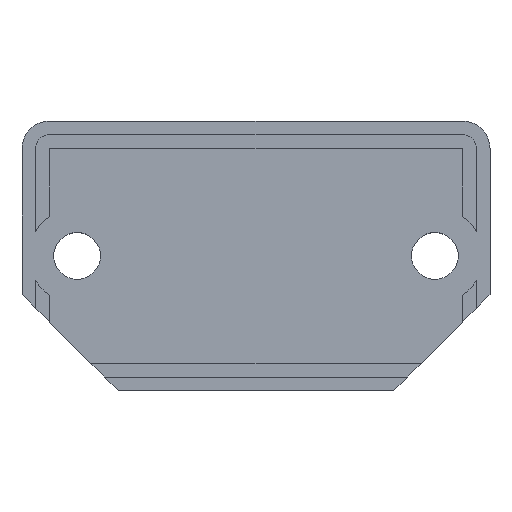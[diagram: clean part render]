
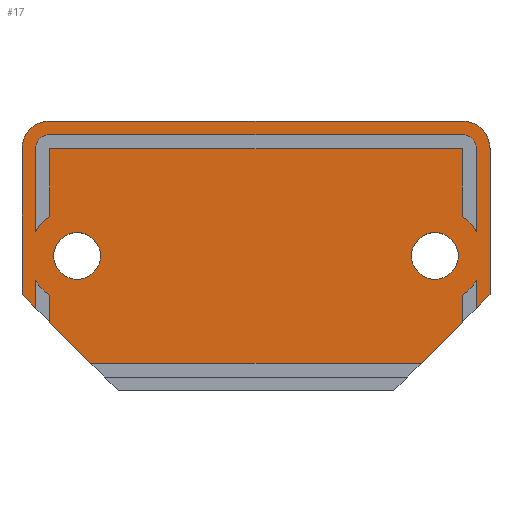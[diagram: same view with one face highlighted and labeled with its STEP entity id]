
A CAD part, top view. The second image highlights one B-rep face of the part: STEP entity #17.
In plain terms, the highlighted planar face has unit normal (0, 0, 1).
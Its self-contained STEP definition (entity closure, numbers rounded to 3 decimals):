
#17 = ADVANCED_FACE('',(#18,#152,#163,#174),#260,.T.);
#18 = FACE_BOUND('',#19,.T.);
#19 = EDGE_LOOP('',(#20,#30,#38,#46,#55,#63,#71,#79,#87,#95,#104,#112,
    #120,#128,#137,#145));
#20 = ORIENTED_EDGE('',*,*,#21,.F.);
#21 = EDGE_CURVE('',#22,#24,#26,.T.);
#22 = VERTEX_POINT('',#23);
#23 = CARTESIAN_POINT('',(-17.,-2.8,4.));
#24 = VERTEX_POINT('',#25);
#25 = CARTESIAN_POINT('',(-17.,7.8,4.));
#26 = LINE('',#27,#28);
#27 = CARTESIAN_POINT('',(-17.,-7.8,4.));
#28 = VECTOR('',#29,1.);
#29 = DIRECTION('',(-0.,1.,0.));
#30 = ORIENTED_EDGE('',*,*,#31,.T.);
#31 = EDGE_CURVE('',#22,#32,#34,.T.);
#32 = VERTEX_POINT('',#33);
#33 = CARTESIAN_POINT('',(-16.,-3.8,4.));
#34 = LINE('',#35,#36);
#35 = CARTESIAN_POINT('',(-9.95,-9.85,4.));
#36 = VECTOR('',#37,1.);
#37 = DIRECTION('',(0.707,-0.707,0.));
#38 = ORIENTED_EDGE('',*,*,#39,.T.);
#39 = EDGE_CURVE('',#32,#40,#42,.T.);
#40 = VERTEX_POINT('',#41);
#41 = CARTESIAN_POINT('',(-16.,-1.803,4.));
#42 = LINE('',#43,#44);
#43 = CARTESIAN_POINT('',(-16.,-3.9,4.));
#44 = VECTOR('',#45,1.);
#45 = DIRECTION('',(-0.,1.,0.));
#46 = ORIENTED_EDGE('',*,*,#47,.T.);
#47 = EDGE_CURVE('',#40,#48,#50,.T.);
#48 = VERTEX_POINT('',#49);
#49 = CARTESIAN_POINT('',(-15.,-2.872,4.));
#50 = CIRCLE('',#51,3.5);
#51 = AXIS2_PLACEMENT_3D('',#52,#53,#54);
#52 = CARTESIAN_POINT('',(-13.,0.,4.));
#53 = DIRECTION('',(0.,0.,1.));
#54 = DIRECTION('',(1.,0.,-0.));
#55 = ORIENTED_EDGE('',*,*,#56,.F.);
#56 = EDGE_CURVE('',#57,#48,#59,.T.);
#57 = VERTEX_POINT('',#58);
#58 = CARTESIAN_POINT('',(-15.,-4.8,4.));
#59 = LINE('',#60,#61);
#60 = CARTESIAN_POINT('',(-15.,-3.9,4.));
#61 = VECTOR('',#62,1.);
#62 = DIRECTION('',(-0.,1.,0.));
#63 = ORIENTED_EDGE('',*,*,#64,.T.);
#64 = EDGE_CURVE('',#57,#65,#67,.T.);
#65 = VERTEX_POINT('',#66);
#66 = CARTESIAN_POINT('',(-12.,-7.8,4.));
#67 = LINE('',#68,#69);
#68 = CARTESIAN_POINT('',(-9.95,-9.85,4.));
#69 = VECTOR('',#70,1.);
#70 = DIRECTION('',(0.707,-0.707,0.));
#71 = ORIENTED_EDGE('',*,*,#72,.F.);
#72 = EDGE_CURVE('',#73,#65,#75,.T.);
#73 = VERTEX_POINT('',#74);
#74 = CARTESIAN_POINT('',(12.,-7.8,4.));
#75 = LINE('',#76,#77);
#76 = CARTESIAN_POINT('',(-7.5,-7.8,4.));
#77 = VECTOR('',#78,1.);
#78 = DIRECTION('',(-1.,-0.,0.));
#79 = ORIENTED_EDGE('',*,*,#80,.F.);
#80 = EDGE_CURVE('',#81,#73,#83,.T.);
#81 = VERTEX_POINT('',#82);
#82 = CARTESIAN_POINT('',(15.,-4.8,4.));
#83 = LINE('',#84,#85);
#84 = CARTESIAN_POINT('',(9.95,-9.85,4.));
#85 = VECTOR('',#86,1.);
#86 = DIRECTION('',(-0.707,-0.707,0.));
#87 = ORIENTED_EDGE('',*,*,#88,.T.);
#88 = EDGE_CURVE('',#81,#89,#91,.T.);
#89 = VERTEX_POINT('',#90);
#90 = CARTESIAN_POINT('',(15.,-2.872,4.));
#91 = LINE('',#92,#93);
#92 = CARTESIAN_POINT('',(15.,-3.9,4.));
#93 = VECTOR('',#94,1.);
#94 = DIRECTION('',(-0.,1.,0.));
#95 = ORIENTED_EDGE('',*,*,#96,.T.);
#96 = EDGE_CURVE('',#89,#97,#99,.T.);
#97 = VERTEX_POINT('',#98);
#98 = CARTESIAN_POINT('',(16.,-1.803,4.));
#99 = CIRCLE('',#100,3.5);
#100 = AXIS2_PLACEMENT_3D('',#101,#102,#103);
#101 = CARTESIAN_POINT('',(13.,0.,4.));
#102 = DIRECTION('',(0.,0.,1.));
#103 = DIRECTION('',(1.,0.,-0.));
#104 = ORIENTED_EDGE('',*,*,#105,.F.);
#105 = EDGE_CURVE('',#106,#97,#108,.T.);
#106 = VERTEX_POINT('',#107);
#107 = CARTESIAN_POINT('',(16.,-3.8,4.));
#108 = LINE('',#109,#110);
#109 = CARTESIAN_POINT('',(16.,-3.9,4.));
#110 = VECTOR('',#111,1.);
#111 = DIRECTION('',(-0.,1.,0.));
#112 = ORIENTED_EDGE('',*,*,#113,.F.);
#113 = EDGE_CURVE('',#114,#106,#116,.T.);
#114 = VERTEX_POINT('',#115);
#115 = CARTESIAN_POINT('',(17.,-2.8,4.));
#116 = LINE('',#117,#118);
#117 = CARTESIAN_POINT('',(9.95,-9.85,4.));
#118 = VECTOR('',#119,1.);
#119 = DIRECTION('',(-0.707,-0.707,0.));
#120 = ORIENTED_EDGE('',*,*,#121,.T.);
#121 = EDGE_CURVE('',#114,#122,#124,.T.);
#122 = VERTEX_POINT('',#123);
#123 = CARTESIAN_POINT('',(17.,7.8,4.));
#124 = LINE('',#125,#126);
#125 = CARTESIAN_POINT('',(17.,-7.8,4.));
#126 = VECTOR('',#127,1.);
#127 = DIRECTION('',(-0.,1.,0.));
#128 = ORIENTED_EDGE('',*,*,#129,.T.);
#129 = EDGE_CURVE('',#122,#130,#132,.T.);
#130 = VERTEX_POINT('',#131);
#131 = CARTESIAN_POINT('',(15.,9.8,4.));
#132 = CIRCLE('',#133,2.);
#133 = AXIS2_PLACEMENT_3D('',#134,#135,#136);
#134 = CARTESIAN_POINT('',(15.,7.8,4.));
#135 = DIRECTION('',(0.,0.,1.));
#136 = DIRECTION('',(1.,0.,-0.));
#137 = ORIENTED_EDGE('',*,*,#138,.F.);
#138 = EDGE_CURVE('',#139,#130,#141,.T.);
#139 = VERTEX_POINT('',#140);
#140 = CARTESIAN_POINT('',(-15.,9.8,4.));
#141 = LINE('',#142,#143);
#142 = CARTESIAN_POINT('',(-15.,9.8,4.));
#143 = VECTOR('',#144,1.);
#144 = DIRECTION('',(1.,0.,-0.));
#145 = ORIENTED_EDGE('',*,*,#146,.T.);
#146 = EDGE_CURVE('',#139,#24,#147,.T.);
#147 = CIRCLE('',#148,2.);
#148 = AXIS2_PLACEMENT_3D('',#149,#150,#151);
#149 = CARTESIAN_POINT('',(-15.,7.8,4.));
#150 = DIRECTION('',(0.,0.,1.));
#151 = DIRECTION('',(1.,0.,-0.));
#152 = FACE_BOUND('',#153,.T.);
#153 = EDGE_LOOP('',(#154));
#154 = ORIENTED_EDGE('',*,*,#155,.F.);
#155 = EDGE_CURVE('',#156,#156,#158,.T.);
#156 = VERTEX_POINT('',#157);
#157 = CARTESIAN_POINT('',(-11.3,0.,4.));
#158 = CIRCLE('',#159,1.7);
#159 = AXIS2_PLACEMENT_3D('',#160,#161,#162);
#160 = CARTESIAN_POINT('',(-13.,0.,4.));
#161 = DIRECTION('',(0.,0.,1.));
#162 = DIRECTION('',(1.,0.,-0.));
#163 = FACE_BOUND('',#164,.T.);
#164 = EDGE_LOOP('',(#165));
#165 = ORIENTED_EDGE('',*,*,#166,.F.);
#166 = EDGE_CURVE('',#167,#167,#169,.T.);
#167 = VERTEX_POINT('',#168);
#168 = CARTESIAN_POINT('',(14.7,0.,4.));
#169 = CIRCLE('',#170,1.7);
#170 = AXIS2_PLACEMENT_3D('',#171,#172,#173);
#171 = CARTESIAN_POINT('',(13.,0.,4.));
#172 = DIRECTION('',(0.,0.,1.));
#173 = DIRECTION('',(1.,0.,-0.));
#174 = FACE_BOUND('',#175,.T.);
#175 = EDGE_LOOP('',(#176,#186,#195,#203,#211,#219,#228,#236,#245,#253)
  );
#176 = ORIENTED_EDGE('',*,*,#177,.F.);
#177 = EDGE_CURVE('',#178,#180,#182,.T.);
#178 = VERTEX_POINT('',#179);
#179 = CARTESIAN_POINT('',(16.,1.803,4.));
#180 = VERTEX_POINT('',#181);
#181 = CARTESIAN_POINT('',(16.,7.8,4.));
#182 = LINE('',#183,#184);
#183 = CARTESIAN_POINT('',(16.,-3.9,4.));
#184 = VECTOR('',#185,1.);
#185 = DIRECTION('',(-0.,1.,0.));
#186 = ORIENTED_EDGE('',*,*,#187,.T.);
#187 = EDGE_CURVE('',#178,#188,#190,.T.);
#188 = VERTEX_POINT('',#189);
#189 = CARTESIAN_POINT('',(15.,2.872,4.));
#190 = CIRCLE('',#191,3.5);
#191 = AXIS2_PLACEMENT_3D('',#192,#193,#194);
#192 = CARTESIAN_POINT('',(13.,0.,4.));
#193 = DIRECTION('',(0.,0.,1.));
#194 = DIRECTION('',(1.,0.,-0.));
#195 = ORIENTED_EDGE('',*,*,#196,.T.);
#196 = EDGE_CURVE('',#188,#197,#199,.T.);
#197 = VERTEX_POINT('',#198);
#198 = CARTESIAN_POINT('',(15.,7.8,4.));
#199 = LINE('',#200,#201);
#200 = CARTESIAN_POINT('',(15.,-3.9,4.));
#201 = VECTOR('',#202,1.);
#202 = DIRECTION('',(-0.,1.,0.));
#203 = ORIENTED_EDGE('',*,*,#204,.T.);
#204 = EDGE_CURVE('',#197,#205,#207,.T.);
#205 = VERTEX_POINT('',#206);
#206 = CARTESIAN_POINT('',(-15.,7.8,4.));
#207 = LINE('',#208,#209);
#208 = CARTESIAN_POINT('',(-7.5,7.8,4.));
#209 = VECTOR('',#210,1.);
#210 = DIRECTION('',(-1.,-0.,0.));
#211 = ORIENTED_EDGE('',*,*,#212,.F.);
#212 = EDGE_CURVE('',#213,#205,#215,.T.);
#213 = VERTEX_POINT('',#214);
#214 = CARTESIAN_POINT('',(-15.,2.872,4.));
#215 = LINE('',#216,#217);
#216 = CARTESIAN_POINT('',(-15.,-3.9,4.));
#217 = VECTOR('',#218,1.);
#218 = DIRECTION('',(-0.,1.,0.));
#219 = ORIENTED_EDGE('',*,*,#220,.T.);
#220 = EDGE_CURVE('',#213,#221,#223,.T.);
#221 = VERTEX_POINT('',#222);
#222 = CARTESIAN_POINT('',(-16.,1.803,4.));
#223 = CIRCLE('',#224,3.5);
#224 = AXIS2_PLACEMENT_3D('',#225,#226,#227);
#225 = CARTESIAN_POINT('',(-13.,0.,4.));
#226 = DIRECTION('',(0.,0.,1.));
#227 = DIRECTION('',(1.,0.,-0.));
#228 = ORIENTED_EDGE('',*,*,#229,.T.);
#229 = EDGE_CURVE('',#221,#230,#232,.T.);
#230 = VERTEX_POINT('',#231);
#231 = CARTESIAN_POINT('',(-16.,7.8,4.));
#232 = LINE('',#233,#234);
#233 = CARTESIAN_POINT('',(-16.,-3.9,4.));
#234 = VECTOR('',#235,1.);
#235 = DIRECTION('',(-0.,1.,0.));
#236 = ORIENTED_EDGE('',*,*,#237,.F.);
#237 = EDGE_CURVE('',#238,#230,#240,.T.);
#238 = VERTEX_POINT('',#239);
#239 = CARTESIAN_POINT('',(-15.,8.8,4.));
#240 = CIRCLE('',#241,1.);
#241 = AXIS2_PLACEMENT_3D('',#242,#243,#244);
#242 = CARTESIAN_POINT('',(-15.,7.8,4.));
#243 = DIRECTION('',(0.,0.,1.));
#244 = DIRECTION('',(1.,0.,-0.));
#245 = ORIENTED_EDGE('',*,*,#246,.F.);
#246 = EDGE_CURVE('',#247,#238,#249,.T.);
#247 = VERTEX_POINT('',#248);
#248 = CARTESIAN_POINT('',(15.,8.8,4.));
#249 = LINE('',#250,#251);
#250 = CARTESIAN_POINT('',(-7.5,8.8,4.));
#251 = VECTOR('',#252,1.);
#252 = DIRECTION('',(-1.,-0.,0.));
#253 = ORIENTED_EDGE('',*,*,#254,.F.);
#254 = EDGE_CURVE('',#180,#247,#255,.T.);
#255 = CIRCLE('',#256,1.);
#256 = AXIS2_PLACEMENT_3D('',#257,#258,#259);
#257 = CARTESIAN_POINT('',(15.,7.8,4.));
#258 = DIRECTION('',(0.,0.,1.));
#259 = DIRECTION('',(1.,0.,-0.));
#260 = PLANE('',#261);
#261 = AXIS2_PLACEMENT_3D('',#262,#263,#264);
#262 = CARTESIAN_POINT('',(0.,0.,4.));
#263 = DIRECTION('',(0.,0.,1.));
#264 = DIRECTION('',(1.,0.,-0.));
